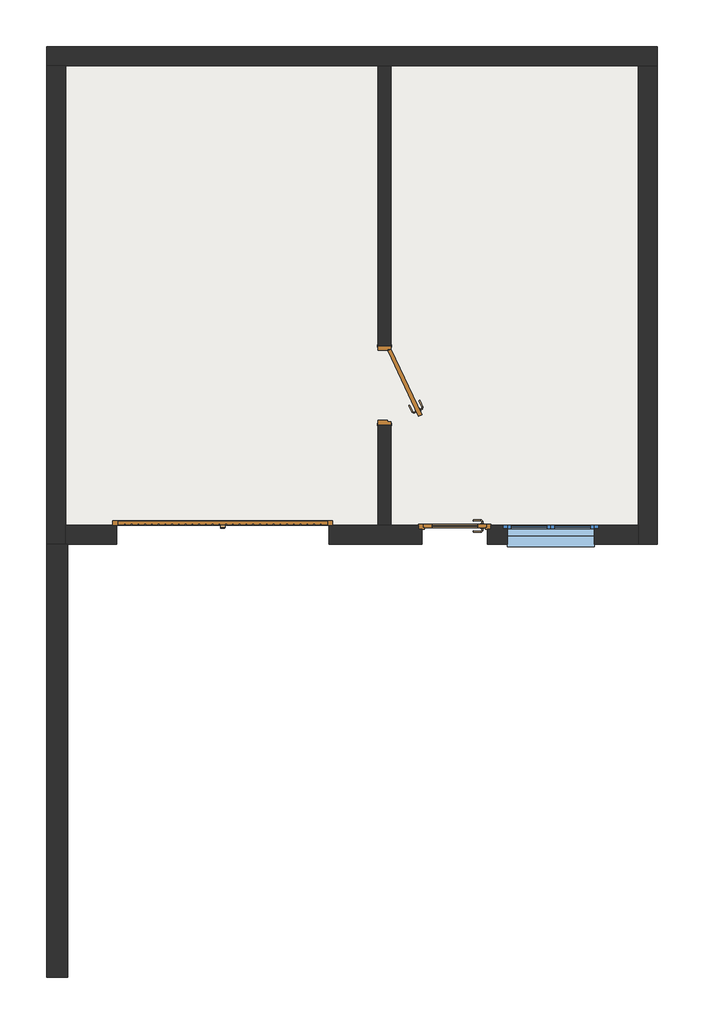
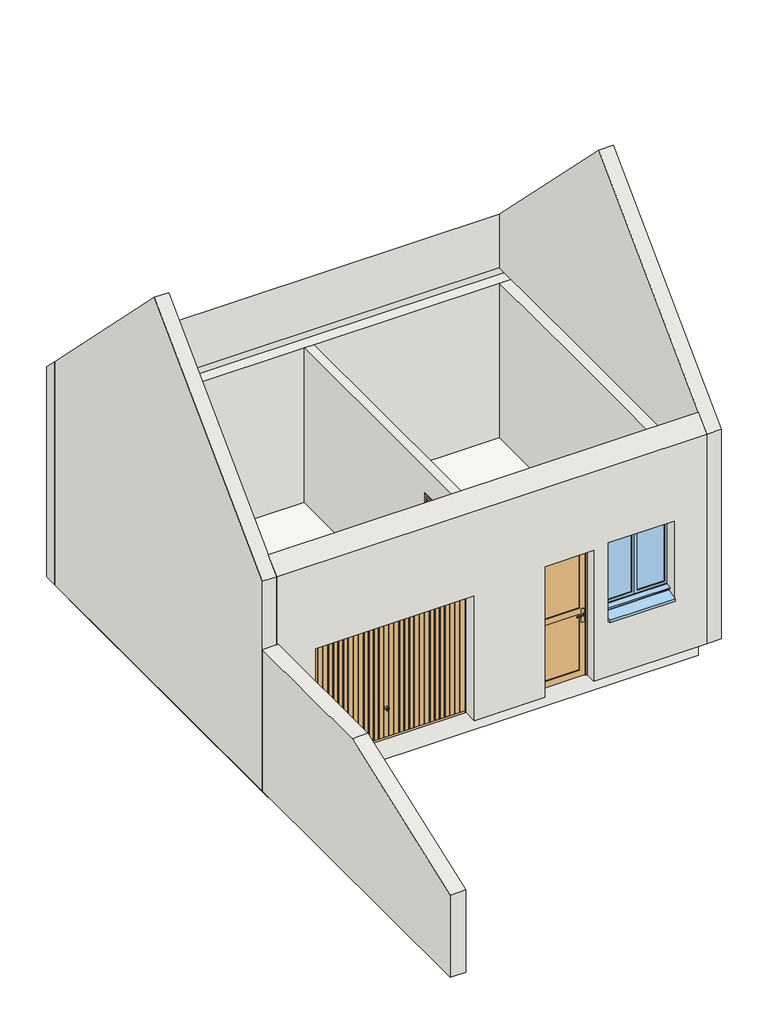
# One storey, incomplete: 6 walls, 3 doors, 1 slab, 1 window.
"""IFC4 building model written with IfcOpenShell, lengths in millimetres."""

from ifc_helpers import new_model, si_unit, frame, origin, place, context, project, spatial, polyline, outline, extrude, faceted_brep, transform, mapped, element, save
from components import door_f3a96b27, door_0_73m_x_2_10m_d47f2a6c, int_simple_oculus_lisse_0_83m_x_2_04m_3713ebb9, window_100x115_8c406891

model = new_model("IFC4")

# Units and contexts
model_context = context("Model", 3, world=origin())
ifc_project = project(units=[si_unit("LENGTHUNIT", "METRE", prefix="MILLI")], contexts=[model_context])

# Site, building, storey
site = spatial("IfcSite", under=ifc_project)
building = spatial("IfcBuilding", under=site)
storey = spatial("IfcBuildingStorey", under=building, Name="Plan du rez de chaussée", Elevation=0.0)

# Doors
placement = place(None, origin())
door_shape = door_f3a96b27(model_context)
element("IfcDoor", 1, ObjectType="Garage basculante : Garage basculante", at=placement, inside=storey, context=model_context, shape_type="MappedRepresentation", body=[
    mapped(door_shape, transform((-1580.0276062, 22743.3803297, 0.0), x_axis=(-1.0, 0.0, 0.0), y_axis=(0.0, -1.0, 0.0), z_axis=(0.0, 0.0, 1.0))),
])
door_0_73m_x_2_10m_shape = door_0_73m_x_2_10m_d47f2a6c(model_context)
element("IfcDoor", 2, ObjectType="PVC Panneau Vitré - Traverse : 0.73m x 2.10m", at=placement, inside=storey, context=model_context, shape_type="MappedRepresentation", body=[
    mapped(door_0_73m_x_2_10m_shape, transform((1094.9723938, 23086.9326555, 0.0), x_axis=(-1.0, 0.0, 0.0), y_axis=(0.0, -1.0, 0.0), z_axis=(0.0, 0.0, 1.0))),
])
int_simple_oculus_lisse_0_83m_x_2_04m_shape = int_simple_oculus_lisse_0_83m_x_2_04m_3713ebb9(model_context)
element("IfcDoor", 3, ObjectType="Int. Simple - Oculus : Lisse - 0.83m x 2.04m", at=placement, inside=storey, context=model_context, shape_type="MappedRepresentation", body=[
    mapped(int_simple_oculus_lisse_0_83m_x_2_04m_shape, transform((289.9723938, 24831.9326555, 0.0), x_axis=(0.0, 1.0, 0.0), y_axis=(-1.0, 0.0, 0.0), z_axis=(0.0, 0.0, 1.0))),
])

# Slab
element("IfcSlab", 4, ObjectType="Dalle Béton -12 cm", at=placement, inside=storey, context=model_context, shape_type="SweptSolid", body=[
    extrude(outline(polyline([(-3365.0276062, 28456.9326555), (3194.9723938, 28456.9326555), (3194.9723938, 23196.9326555), (-3365.0276062, 23196.9326555), (-3365.0276062, 28456.9326555)])), frame((0.0, 0.0, -320.0), z_axis=(0.0, 0.0, 1.0), x_axis=(1.0, 0.0, 0.0)), (0.0, 0.0, 1.0), 320.0),
])

# Walls
element("IfcWall", 5, ObjectType="EXTERIEUR BBM 20 cm+  ENDUIT", at=placement, inside=storey, context=model_context, shape_type="Brep", body=[
    faceted_brep([(-3585.0276062, 28456.9326555, 0.0), (-3365.0276062, 28456.9326555, 0.0), (214.9723938, 28456.9326555, 0.0), (364.9723938, 28456.9326555, 0.0), (3194.9723938, 28456.9326555, 0.0), (3414.9723938, 28456.9326555, 0.0), (3414.9723938, 28456.9326555, 3600.0), (3194.9723938, 28456.9326555, 3600.0), (-3365.0276062, 28456.9326555, 3600.0), (-3585.0276062, 28456.9326555, 3600.0), (3374.9723938, 28456.9326555, 2490.0), (3194.9723938, 28456.9326555, 2490.0), (364.9723938, 28456.9326555, 2490.0), (214.9723938, 28456.9326555, 2490.0), (-3365.0276062, 28456.9326555, 2490.0), (-3545.0276062, 28456.9326555, 2490.0), (-3545.0276062, 28456.9326555, 2740.0), (-3365.0276062, 28456.9326555, 2740.0), (3194.9723938, 28456.9326555, 2740.0), (3374.9723938, 28456.9326555, 2740.0), (3414.9723938, 28676.9326555, 0.0), (-3585.0276062, 28676.9326555, 0.0), (-3585.0276062, 28676.9326555, 3380.0), (3414.9723938, 28676.9326555, 3380.0), (3374.9723938, 28636.9326555, 2490.0), (-3545.0276062, 28636.9326555, 2490.0), (-3545.0276062, 28636.9326555, 2740.0), (3374.9723938, 28636.9326555, 2740.0)], [[[0, 1, 2, 3, 4, 5, 6, 7, 8, 9], [10, 11, 12, 13, 14, 15, 16, 17, 18, 19]], [[20, 21, 22, 23]], [[5, 4, 3, 2, 1, 0, 21, 20]], [[0, 9, 22, 21]], [[6, 5, 20, 23]], [[9, 8, 7, 6, 23, 22]], [[24, 25, 15, 14, 13, 12, 11, 10]], [[26, 27, 19, 18, 17, 16]], [[27, 24, 10, 19]], [[25, 26, 16, 15]], [[25, 24, 27, 26]]]),
])
element("IfcWall", 6, ObjectType="EXTERIEUR BBM 20 cm+  ENDUIT", at=placement, inside=storey, context=model_context, shape_type="Brep", body=[
    faceted_brep([(-3365.0276062, 22976.9326555, 0.0), (-3365.0276062, 23196.9326555, 0.0), (-3365.0276062, 28456.9326555, 0.0), (-3365.0276062, 28456.9326555, 2490.0), (-3365.0276062, 23196.9326555, 2490.0), (-3365.0276062, 23016.9326555, 2490.0), (-3365.0276062, 23016.9326555, 2740.0), (-3365.0276062, 23196.9326555, 2740.0), (-3365.0276062, 28456.9326555, 2740.0), (-3365.0276062, 28456.9326555, 3600.0), (-3365.0276062, 25826.9326555, 6230.0), (-3365.0276062, 23196.9326555, 3600.0), (-3365.0276062, 22976.9326555, 3380.0), (-3585.0276062, 28456.9326555, 0.0), (-3585.0276062, 22976.9326555, 0.0), (-3585.0276062, 22976.9326555, 2280.0), (-3585.0276062, 22976.9326555, 3380.0), (-3585.0276062, 25826.9326555, 6230.0), (-3585.0276062, 28456.9326555, 3600.0), (-3545.0276062, 28456.9326555, 2740.0), (-3545.0276062, 28456.9326555, 2490.0), (-3545.0276062, 23016.9326555, 2490.0), (-3545.0276062, 23016.9326555, 2740.0)], [[[0, 1, 2, 3, 4, 5, 6, 7, 8, 9, 10, 11, 12]], [[13, 14, 15, 16, 17, 18]], [[2, 1, 0, 14, 13]], [[14, 0, 12, 16, 15]], [[2, 13, 18, 9, 8, 19, 20, 3]], [[16, 12, 11, 10, 17]], [[9, 18, 17, 10]], [[20, 21, 5, 4, 3]], [[6, 22, 19, 8, 7]], [[21, 22, 6, 5]], [[22, 21, 20, 19]]]),
])
element("IfcWall", 7, ObjectType="EXTERIEUR BBM 20 cm+  ENDUIT", at=placement, inside=storey, context=model_context, shape_type="Brep", body=[
    faceted_brep([(3194.9723938, 28456.9326555, 0.0), (3194.9723938, 23196.9326555, 0.0), (3194.9723938, 22976.9326555, 0.0), (3194.9723938, 22976.9326555, 3380.0), (3194.9723938, 23196.9326555, 3600.0), (3194.9723938, 25826.9326555, 6230.0), (3194.9723938, 28456.9326555, 3600.0), (3194.9723938, 28456.9326555, 2740.0), (3194.9723938, 26445.2717089, 2740.0), (3194.9723938, 24260.3507212, 2740.0), (3194.9723938, 23196.9326555, 2740.0), (3194.9723938, 23016.9326555, 2740.0), (3194.9723938, 23016.9326555, 2490.0), (3194.9723938, 23196.9326555, 2490.0), (3194.9723938, 24260.3507212, 2490.0), (3194.9723938, 26445.2717089, 2490.0), (3194.9723938, 28456.9326555, 2490.0), (3414.9723938, 22976.9326555, 0.0), (3414.9723938, 28456.9326555, 0.0), (3414.9723938, 28456.9326555, 3600.0), (3414.9723938, 25826.9326555, 6230.0), (3414.9723938, 22976.9326555, 3380.0), (3374.9723938, 28456.9326555, 2490.0), (3374.9723938, 28456.9326555, 2740.0), (3374.9723938, 23016.9326555, 2490.0), (3374.9723938, 23016.9326555, 2740.0)], [[[0, 1, 2, 3, 4, 5, 6, 7, 8, 9, 10, 11, 12, 13, 14, 15, 16]], [[17, 18, 19, 20, 21]], [[2, 1, 0, 18, 17]], [[3, 2, 17, 21]], [[6, 19, 18, 0, 16, 22, 23, 7]], [[19, 6, 5, 20]], [[3, 21, 20, 5, 4]], [[12, 24, 22, 16, 15, 14, 13]], [[25, 11, 10, 9, 8, 7, 23]], [[24, 25, 23, 22]], [[25, 24, 12, 11]]]),
])
element("IfcWall", 8, ObjectType="EXTERIEUR BBM 20 cm+  ENDUIT", at=placement, inside=storey, context=model_context, shape_type="Brep", body=[
    faceted_brep([(3194.9723938, 23196.9326555, 0.0), (1509.9723938, 23196.9326555, 0.0), (1509.9723938, 23196.9326555, 2150.0), (679.9723938, 23196.9326555, 2150.0), (679.9723938, 23196.9326555, 0.0), (364.9723938, 23196.9326555, 0.0), (214.9723938, 23196.9326555, 0.0), (-350.0276062, 23196.9326555, 0.0), (-350.0276062, 23196.9326555, 2015.0), (-2780.0276062, 23196.9326555, 2015.0), (-2780.0276062, 23196.9326555, 0.0), (-3365.0276062, 23196.9326555, 0.0), (-3365.0276062, 23196.9326555, 2490.0), (214.9723938, 23196.9326555, 2490.0), (364.9723938, 23196.9326555, 2490.0), (3194.9723938, 23196.9326555, 2490.0), (1644.9723938, 23196.9326555, 1000.0), (2744.9723938, 23196.9326555, 1000.0), (2744.9723938, 23196.9326555, 2200.0), (1644.9723938, 23196.9326555, 2200.0), (-3365.0276062, 23196.9326555, 3600.0), (3194.9723938, 23196.9326555, 3600.0), (3194.9723938, 23196.9326555, 2740.0), (-3365.0276062, 23196.9326555, 2740.0), (3194.9723938, 22976.9326555, 0.0), (3194.9723938, 22976.9326555, 3380.0), (-3365.0276062, 22976.9326555, 3380.0), (-3365.0276062, 22976.9326555, 0.0), (-3345.0276062, 22976.9326555, 0.0), (-2780.0276062, 22976.9326555, 0.0), (-2780.0276062, 22976.9326555, 2015.0), (-350.0276062, 22976.9326555, 2015.0), (-350.0276062, 22976.9326555, 0.0), (719.9723938, 22976.9326555, 0.0), (719.9723938, 22976.9326555, 2110.0), (1469.9723938, 22976.9326555, 2110.0), (1469.9723938, 22976.9326555, 0.0), (1694.9723938, 22976.9326555, 2150.0), (2694.9723938, 22976.9326555, 2150.0), (2694.9723938, 22976.9326555, 879.860817), (1694.9723938, 22976.9326555, 879.860817), (1469.9723938, 23146.9326555, 0.0), (1509.9723938, 23146.9326555, 0.0), (679.9723938, 23146.9326555, 0.0), (719.9723938, 23146.9326555, 0.0), (3194.9723938, 23016.9326555, 2490.0), (3194.9723938, 23016.9326555, 2740.0), (-3365.0276062, 23016.9326555, 2740.0), (-3365.0276062, 23016.9326555, 2490.0), (719.9723938, 23146.9326555, 2110.0), (1469.9723938, 23146.9326555, 2110.0), (1509.9723938, 23146.9326555, 2150.0), (679.9723938, 23146.9326555, 2150.0), (1694.9723938, 23156.9326555, 2150.0), (2694.9723938, 23156.9326555, 2150.0), (1694.9723938, 23108.1576174, 879.860817), (1694.9723938, 23156.9326555, 922.1), (1694.9723938, 23156.9326555, 1000.0), (1644.9723938, 23156.9326555, 1000.0), (2694.9723938, 23156.9326555, 1000.0), (2744.9723938, 23156.9326555, 1000.0), (2694.9723938, 23156.9326555, 922.1), (2694.9723938, 23108.1576174, 879.860817), (1644.9723938, 23156.9326555, 2200.0), (2744.9723938, 23156.9326555, 2200.0)], [[[0, 1, 2, 3, 4, 5, 6, 7, 8, 9, 10, 11, 12, 13, 14, 15], [16, 17, 18, 19]], [[20, 21, 22, 23]], [[24, 25, 26, 27, 28, 29, 30, 31, 32, 33, 34, 35, 36], [37, 38, 39, 40]], [[1, 0, 24, 36, 41, 42]], [[7, 6, 5, 4, 43, 44, 33, 32]], [[11, 10, 29, 28, 27]], [[25, 24, 0, 15, 45, 46, 22, 21]], [[27, 26, 20, 23, 47, 48, 12, 11]], [[21, 20, 26, 25]], [[9, 8, 31, 30]], [[8, 7, 32, 31]], [[10, 9, 30, 29]], [[35, 34, 49, 50]], [[36, 35, 50, 41]], [[34, 33, 44, 49]], [[2, 1, 42, 51]], [[42, 41, 50, 49, 44, 43, 52, 51]], [[3, 2, 51, 52]], [[4, 3, 52, 43]], [[37, 53, 54, 38]], [[53, 37, 40, 55, 56, 57]], [[17, 16, 58, 57, 59, 60]], [[38, 54, 59, 61, 62, 39]], [[58, 16, 19, 63]], [[54, 53, 57, 58, 63, 64, 60, 59]], [[63, 19, 18, 64]], [[17, 60, 64, 18]], [[55, 40, 39, 62]], [[56, 55, 62, 61]], [[57, 56, 61, 59]], [[48, 45, 15, 14, 13, 12]], [[46, 47, 23, 22]], [[45, 48, 47, 46]]]),
])
element("IfcWall", 9, ObjectType="Refend BBM 15 cm", at=placement, inside=storey, context=model_context, shape_type="SweptSolid", body=[
    extrude(outline(polyline([(23196.9326555, 2490.0), (28456.9326555, 2490.0), (28456.9326555, 0.0), (25246.9326555, 0.0), (25246.9326555, 2075.0), (24346.9326555, 2075.0), (24346.9326555, 0.0), (23196.9326555, 0.0), (23196.9326555, 2490.0)])), frame((214.9723938, 0.0, 0.0), z_axis=(1.0, 0.0, 0.0), x_axis=(0.0, 1.0, 0.0)), (0.0, 0.0, 1.0), 150.0),
])
element("IfcWall", 10, ObjectType="MUR PARPAING ENDUIT 24", at=placement, inside=storey, context=model_context, shape_type="Brep", body=[
    faceted_brep([(-3585.0276062, 22976.9326555, 0.0), (-3585.0276062, 18016.9326555, 0.0), (-3585.0276062, 18016.9326555, 1328.0171931), (-3585.0276062, 20606.9326555, 2280.0), (-3585.0276062, 22976.9326555, 2280.0), (-3345.0276062, 22976.9326555, 0.0), (-3345.0276062, 22976.9326555, 2280.0), (-3345.0276062, 20606.9326555, 2280.0), (-3345.0276062, 18016.9326555, 1328.0171931), (-3345.0276062, 18016.9326555, 0.0), (-3365.0276062, 22976.9326555, 0.0)], [[[0, 1, 2, 3, 4]], [[5, 6, 7, 8, 9]], [[1, 0, 10, 5, 9]], [[2, 1, 9, 8]], [[3, 2, 8, 7]], [[4, 3, 7, 6]], [[0, 4, 6, 5, 10]]]),
])

# Window
window_100x115_shape = window_100x115_8c406891(model_context)
element("IfcWindow", 11, ObjectType="FR_2 Vantaux Appui Béton : 100x115", at=placement, inside=storey, context=model_context, shape_type="MappedRepresentation", body=[
    mapped(window_100x115_shape, transform((2189.9723938, 22796.9326555, 400.0), x_axis=(1.0, 0.0, 0.0), y_axis=(0.0, 1.0, 0.0), z_axis=(0.0, 0.0, 1.0))),
])

save(model, "model.ifc")
